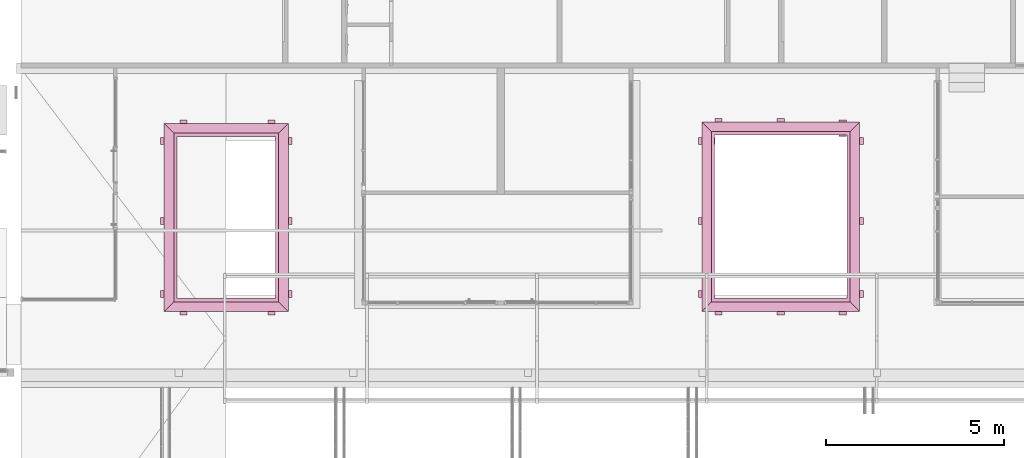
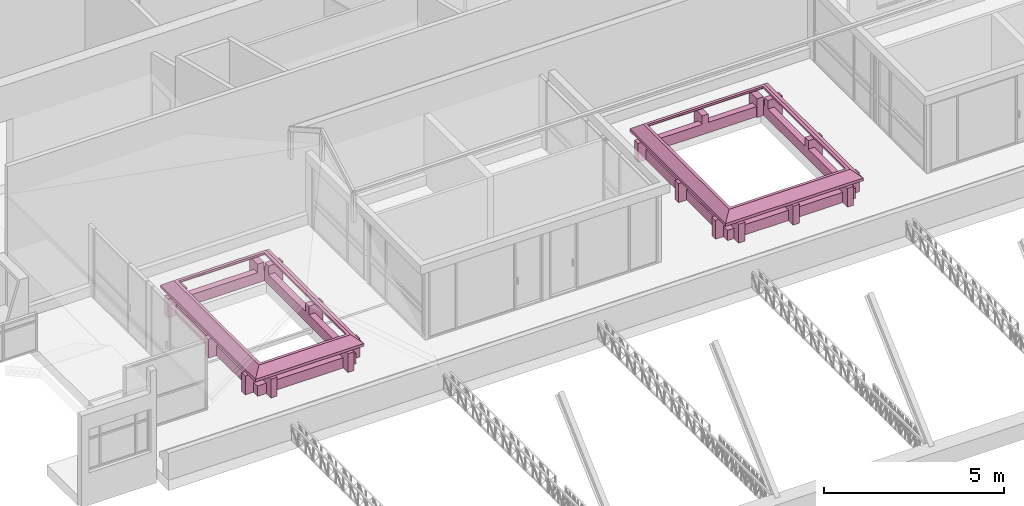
# One storey, part 152 of 153: 2 furniture elements.
"""IFC4 building model written with IfcOpenShell, lengths in metres."""

from ifc_helpers import new_model, entity, si_unit, converted_unit, derived_unit, direction, frame, origin, place, context, subcontext, project, spatial, polygons, source, transform, mapped, material, type_object, type_shapes, element, save


model = new_model("IFC4")

# Units and contexts
model_context = context("Model", 3, precision=1e-05, world=origin(), true_north=direction((6.123031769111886e-17, 1.0)))
body_context = subcontext(model_context, "Body", "Model", "MODEL_VIEW")
ifc_project = project(units=[si_unit("LENGTHUNIT", "METRE"), si_unit("AREAUNIT", "SQUARE_METRE"), si_unit("VOLUMEUNIT", "CUBIC_METRE"), converted_unit("PLANEANGLEUNIT", "DEGREE", entity("IfcRatioMeasure", 0.017453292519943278), si_unit("PLANEANGLEUNIT", "RADIAN"), dimensions=[0, 0, 0, 0, 0, 0, 0]), si_unit("MASSUNIT", "GRAM", prefix="KILO"), derived_unit("MASSDENSITYUNIT", [(si_unit("MASSUNIT", "GRAM", prefix="KILO"), 1), (si_unit("LENGTHUNIT", "METRE"), -3)]), derived_unit("MOMENTOFINERTIAUNIT", [(si_unit("LENGTHUNIT", "METRE"), 4)]), si_unit("TIMEUNIT", "SECOND"), si_unit("FREQUENCYUNIT", "HERTZ"), si_unit("THERMODYNAMICTEMPERATUREUNIT", "DEGREE_CELSIUS"), derived_unit("THERMALTRANSMITTANCEUNIT", [(si_unit("MASSUNIT", "GRAM", prefix="KILO"), 1), (si_unit("THERMODYNAMICTEMPERATUREUNIT", "KELVIN"), -1), (si_unit("TIMEUNIT", "SECOND"), -3)]), derived_unit("VOLUMETRICFLOWRATEUNIT", [(si_unit("LENGTHUNIT", "METRE"), 3), (si_unit("TIMEUNIT", "SECOND"), -1)]), derived_unit("MASSFLOWRATEUNIT", [(si_unit("MASSUNIT", "GRAM", prefix="KILO"), 1), (si_unit("TIMEUNIT", "SECOND"), -1)]), derived_unit("ROTATIONALFREQUENCYUNIT", [(si_unit("TIMEUNIT", "SECOND"), -1)]), si_unit("ELECTRICCURRENTUNIT", "AMPERE"), si_unit("ELECTRICVOLTAGEUNIT", "VOLT"), si_unit("POWERUNIT", "WATT"), si_unit("FORCEUNIT", "NEWTON", prefix="KILO"), si_unit("ILLUMINANCEUNIT", "LUX"), si_unit("LUMINOUSFLUXUNIT", "LUMEN"), si_unit("LUMINOUSINTENSITYUNIT", "CANDELA"), derived_unit("USERDEFINED", [(si_unit("MASSUNIT", "GRAM", prefix="KILO"), -1), (si_unit("LENGTHUNIT", "METRE"), -2), (si_unit("TIMEUNIT", "SECOND"), 3), (si_unit("LUMINOUSFLUXUNIT", "LUMEN"), 1)]), derived_unit("SOUNDPOWERUNIT", [(si_unit("MASSUNIT", "GRAM", prefix="KILO"), 1), (si_unit("LENGTHUNIT", "METRE"), 2), (si_unit("TIMEUNIT", "SECOND"), -3)]), derived_unit("SOUNDPRESSUREUNIT", [(si_unit("MASSUNIT", "GRAM", prefix="KILO"), 1), (si_unit("LENGTHUNIT", "METRE"), -1), (si_unit("TIMEUNIT", "SECOND"), -2)]), derived_unit("LINEARVELOCITYUNIT", [(si_unit("LENGTHUNIT", "METRE"), 1), (si_unit("TIMEUNIT", "SECOND"), -1)]), si_unit("PRESSUREUNIT", "PASCAL"), derived_unit("USERDEFINED", [(si_unit("LENGTHUNIT", "METRE"), -2), (si_unit("MASSUNIT", "GRAM", prefix="KILO"), 1), (si_unit("TIMEUNIT", "SECOND"), -2)]), derived_unit("LINEARFORCEUNIT", [(si_unit("MASSUNIT", "GRAM", prefix="KILO"), 1), (si_unit("LENGTHUNIT", "METRE"), 1), (si_unit("TIMEUNIT", "SECOND"), -2), (si_unit("LENGTHUNIT", "METRE"), -1)]), derived_unit("PLANARFORCEUNIT", [(si_unit("MASSUNIT", "GRAM", prefix="KILO"), 1), (si_unit("LENGTHUNIT", "METRE"), 1), (si_unit("TIMEUNIT", "SECOND"), -2), (si_unit("LENGTHUNIT", "METRE"), -2)])], contexts=[model_context])

# Site, building, storey
site_placement = place(None, origin())
site = spatial("IfcSite", under=ifc_project, at=site_placement, Name="Superficie", CompositionType="ELEMENT")
building_placement = place(site_placement, origin())
building = spatial("IfcBuilding", under=site, at=building_placement, CompositionType="ELEMENT")
storey_placement = place(building_placement, frame((0.0, 0.0, 3.5999999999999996)))
storey = spatial("IfcBuildingStorey", under=building, at=storey_placement, Name="Nivel 1", CompositionType="ELEMENT", Elevation=3.5999999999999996)

# Furniture
ifc_material = material(Name="Madera - Listel", Category="Madera")
furniture_type_1 = type_object("IfcFurnitureType", Name="baranda hueco1:baranda hueco", AssemblyPlace="NOTDEFINED", PredefinedType="NOTDEFINED", material=ifc_material)
shared_shape_1 = source(origin(), body_context, "Body", "Tessellation", [
    polygons([(0.0, 0.4900000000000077, 0.6400000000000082), (0.10000000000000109, 0.49000000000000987, 0.6400000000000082), (0.4599999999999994, 0.49000000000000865, 0.6400000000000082), (0.4599999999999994, 0.6900000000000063, 0.6400000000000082), (0.0, 0.6900000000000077, 0.6400000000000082), (0.0, 0.4900000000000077, 8.121503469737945e-15), (0.10000000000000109, 0.49000000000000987, 8.121503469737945e-15), (0.4599999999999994, 0.49000000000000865, 8.121503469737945e-15), (0.4599999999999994, 0.6900000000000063, 8.121503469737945e-15), (0.0, 0.6900000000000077, 8.121503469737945e-15)], [[[1, 2, 3, 4, 5]], [[2, 1, 6, 7]], [[3, 2, 7, 8]], [[4, 3, 8, 9]], [[5, 4, 9, 10]], [[1, 5, 10, 6]], [[6, 10, 9, 8, 7]]], closed=True),
    polygons([(3.6900000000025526, 4.789999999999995, 8.121503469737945e-15), (3.2250000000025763, 4.7899999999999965, 8.121503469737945e-15), (3.2250000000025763, 4.989999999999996, 8.121503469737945e-15), (3.6900000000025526, 4.989999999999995, 8.121503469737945e-15), (3.6900000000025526, 4.989999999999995, 0.6400000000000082), (3.6900000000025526, 4.789999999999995, 0.6400000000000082), (3.2250000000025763, 4.989999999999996, 0.6400000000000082), (3.2250000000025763, 4.7899999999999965, 0.6400000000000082)], [[[1, 2, 3, 4]], [[5, 6, 1, 4]], [[7, 5, 4, 3]], [[8, 7, 3, 2]], [[6, 8, 2, 1]], [[6, 5, 7, 8]]], closed=True),
    polygons([(0.4599999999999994, 2.7400000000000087, 0.6400000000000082), (0.4599999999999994, 2.5400000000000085, 0.6400000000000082), (0.4599999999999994, 2.5400000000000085, 8.121503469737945e-15), (0.4599999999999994, 2.7400000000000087, 8.121503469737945e-15), (0.0, 2.7400000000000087, 0.6400000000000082), (0.0, 2.7400000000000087, 8.121503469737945e-15), (0.0, 2.5400000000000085, 0.6400000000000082), (0.0, 2.5400000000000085, 8.121503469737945e-15)], [[[1, 2, 3, 4]], [[5, 1, 4, 6]], [[7, 5, 6, 8]], [[2, 7, 8, 3]], [[3, 8, 6, 4]], [[2, 1, 5, 7]]], closed=True),
    polygons([(0.4649999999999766, 4.9900000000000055, 0.6400000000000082), (0.4649999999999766, 4.790000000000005, 0.6400000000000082), (0.4649999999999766, 4.790000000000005, 8.121503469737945e-15), (0.4649999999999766, 4.9900000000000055, 8.121503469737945e-15), (4.331468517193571e-15, 4.990000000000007, 0.6400000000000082), (4.331468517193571e-15, 4.990000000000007, 8.121503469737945e-15), (4.331468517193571e-15, 4.790000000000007, 0.6400000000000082), (4.331468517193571e-15, 4.790000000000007, 8.121503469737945e-15)], [[[1, 2, 3, 4]], [[5, 1, 4, 6]], [[7, 5, 6, 8]], [[2, 7, 8, 3]], [[3, 8, 6, 4]], [[2, 1, 5, 7]]], closed=True),
    polygons([(3.325000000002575, 0.4899999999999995, 0.6400000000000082), (3.225000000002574, 0.4899999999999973, 0.6400000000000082), (3.225000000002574, 0.4899999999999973, 8.121503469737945e-15), (3.325000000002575, 0.4899999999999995, 8.121503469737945e-15), (3.6850000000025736, 0.4899999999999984, 0.6400000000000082), (3.6850000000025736, 0.4899999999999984, 8.121503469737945e-15), (3.6850000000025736, 0.6899999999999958, 0.6400000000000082), (3.6850000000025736, 0.6899999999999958, 8.121503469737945e-15), (3.225000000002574, 0.6899999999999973, 0.6400000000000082), (3.225000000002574, 0.6899999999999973, 8.121503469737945e-15)], [[[1, 2, 3, 4]], [[5, 1, 4, 6]], [[7, 5, 6, 8]], [[9, 7, 8, 10]], [[2, 9, 10, 3]], [[3, 10, 8, 6, 4]], [[2, 1, 5, 7, 9]]], closed=True),
    polygons([(3.6850000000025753, 2.7399999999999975, 0.6400000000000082), (3.6850000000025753, 2.539999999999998, 0.6400000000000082), (3.6850000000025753, 2.539999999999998, 8.121503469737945e-15), (3.6850000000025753, 2.7399999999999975, 8.121503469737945e-15), (3.2250000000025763, 2.7399999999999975, 0.6400000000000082), (3.2250000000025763, 2.7399999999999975, 8.121503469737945e-15), (3.2250000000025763, 2.539999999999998, 0.6400000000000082), (3.2250000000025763, 2.539999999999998, 8.121503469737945e-15)], [[[1, 2, 3, 4]], [[5, 1, 4, 6]], [[7, 5, 6, 8]], [[2, 7, 8, 3]], [[3, 8, 6, 4]], [[2, 1, 5, 7]]], closed=True),
    polygons([(0.7400000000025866, 8.121503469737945e-15, 0.6400000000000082), (0.5400000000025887, 8.121503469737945e-15, 0.6400000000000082), (0.5400000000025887, 8.121503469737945e-15, 8.121503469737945e-15), (0.7400000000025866, 8.121503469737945e-15, 8.121503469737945e-15), (0.7400000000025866, 0.46000000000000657, 0.6400000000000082), (0.7400000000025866, 0.46000000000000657, 8.121503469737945e-15), (0.5400000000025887, 0.46000000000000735, 0.6400000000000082), (0.5400000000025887, 0.46000000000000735, 8.121503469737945e-15), (0.5400000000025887, 0.10000000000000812, 0.6400000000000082), (0.5400000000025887, 0.10000000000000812, 8.121503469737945e-15)], [[[1, 2, 3, 4]], [[5, 1, 4, 6]], [[7, 5, 6, 8]], [[9, 7, 8, 10]], [[2, 9, 10, 3]], [[3, 10, 8, 6, 4]], [[2, 1, 5, 7, 9]]], closed=True),
    polygons([(3.21000000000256, 0.0, 0.6400000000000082), (3.01000000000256, 0.0, 0.6400000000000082), (3.01000000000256, 0.0, 8.121503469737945e-15), (3.21000000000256, 0.0, 8.121503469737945e-15), (3.21000000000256, 0.4599999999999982, 0.6400000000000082), (3.21000000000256, 0.4599999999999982, 8.121503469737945e-15), (3.01000000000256, 0.45999999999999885, 0.6400000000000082), (3.01000000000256, 0.45999999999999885, 8.121503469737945e-15), (3.01000000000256, 0.0999999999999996, 0.6400000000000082), (3.01000000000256, 0.0999999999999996, 8.121503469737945e-15)], [[[1, 2, 3, 4]], [[5, 1, 4, 6]], [[7, 5, 6, 8]], [[9, 7, 8, 10]], [[2, 9, 10, 3]], [[3, 10, 8, 6, 4]], [[2, 1, 5, 7, 9]]], closed=True),
    polygons([(0.7400000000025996, 5.016145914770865, 0.6400000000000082), (0.5400000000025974, 5.016145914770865, 0.6400000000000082), (0.5400000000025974, 5.016145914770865, 8.121503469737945e-15), (0.7400000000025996, 5.016145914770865, 8.121503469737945e-15), (0.7400000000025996, 5.4761459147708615, 0.6400000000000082), (0.7400000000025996, 5.4761459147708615, 8.121503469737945e-15), (0.5400000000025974, 5.476145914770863, 0.6400000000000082), (0.5400000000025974, 5.476145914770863, 8.121503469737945e-15), (0.5400000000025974, 5.116145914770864, 0.6400000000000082), (0.5400000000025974, 5.116145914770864, 8.121503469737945e-15)], [[[1, 2, 3, 4]], [[5, 1, 4, 6]], [[7, 5, 6, 8]], [[9, 7, 8, 10]], [[2, 9, 10, 3]], [[3, 10, 8, 6, 4]], [[2, 1, 5, 7, 9]]], closed=True),
    polygons([(3.2100000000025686, 5.016145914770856, 0.6400000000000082), (3.010000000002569, 5.016145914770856, 0.6400000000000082), (3.010000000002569, 5.016145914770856, 8.121503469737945e-15), (3.2100000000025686, 5.016145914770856, 8.121503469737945e-15), (3.2100000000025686, 5.476145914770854, 0.6400000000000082), (3.2100000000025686, 5.476145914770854, 8.121503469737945e-15), (3.010000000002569, 5.476145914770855, 0.6400000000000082), (3.010000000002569, 5.476145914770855, 8.121503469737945e-15), (3.010000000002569, 5.116145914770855, 0.6400000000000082), (3.010000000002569, 5.116145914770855, 8.121503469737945e-15)], [[[1, 2, 3, 4]], [[5, 1, 4, 6]], [[7, 5, 6, 8]], [[9, 7, 8, 10]], [[2, 9, 10, 3]], [[3, 10, 8, 6, 4]], [[2, 1, 5, 7, 9]]], closed=True),
    polygons([(3.2250000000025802, 5.016145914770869, 7.038636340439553e-15), (3.2250000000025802, 5.016145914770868, 0.3500000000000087), (0.4600000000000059, 5.016145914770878, 0.3500000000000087), (0.4600000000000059, 5.016145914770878, 2.7071678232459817e-15), (3.4250000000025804, 5.216145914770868, 0.3500000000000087), (3.4250000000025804, 5.216145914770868, 8.121503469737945e-15), (0.26000000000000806, 5.216145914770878, 8.121503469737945e-15), (0.26000000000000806, 5.216145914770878, 0.35000000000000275), (0.4599999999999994, 0.4599999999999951, 0.3500000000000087), (0.4599999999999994, 0.4599999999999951, 2.7071678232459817e-15), (0.2599999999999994, 0.259999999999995, 8.121503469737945e-15), (0.2599999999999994, 0.259999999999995, 0.35000000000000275), (3.225000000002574, 0.45999999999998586, 0.3500000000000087), (3.225000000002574, 0.45999999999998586, 7.038636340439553e-15), (3.4250000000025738, 0.25999999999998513, 8.121503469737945e-15), (3.4250000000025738, 0.25999999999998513, 0.3500000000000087)], [[[1, 2, 3, 4]], [[5, 6, 7, 8]], [[4, 3, 9, 10]], [[8, 7, 11, 12]], [[10, 9, 13, 14]], [[12, 11, 15, 16]], [[14, 13, 2, 1]], [[6, 15, 11, 7], [4, 10, 14, 1]], [[16, 15, 6, 5]], [[8, 12, 16, 5], [2, 13, 9, 3]]], closed=True),
    polygons([(3.2250000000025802, 5.016145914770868, 0.9000000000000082), (3.2250000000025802, 5.016145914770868, 0.9600000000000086), (0.4600000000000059, 5.016145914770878, 0.9600000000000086), (0.4600000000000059, 5.016145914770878, 0.8999999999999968), (3.5250000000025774, 5.316145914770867, 0.7300000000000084), (3.3150000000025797, 5.106145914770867, 0.9000000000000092), (0.37000000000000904, 5.1061459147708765, 0.9000000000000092), (0.16000000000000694, 5.3161459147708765, 0.7300000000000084), (3.5250000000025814, 5.316145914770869, 0.6400000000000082), (0.16000000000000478, 5.316145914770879, 0.6399999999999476), (3.585000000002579, 5.376145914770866, 0.73000000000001), (3.585000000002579, 5.376145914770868, 0.6400000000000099), (0.10000000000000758, 5.376145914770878, 0.6400000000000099), (0.10000000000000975, 5.376145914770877, 0.7300000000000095), (3.3150000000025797, 5.106145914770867, 0.9600000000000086), (0.37000000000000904, 5.1061459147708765, 0.9600000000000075), (0.4599999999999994, 0.4599999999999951, 0.9600000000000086), (0.4599999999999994, 0.4599999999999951, 0.8999999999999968), (0.37000000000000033, 0.36999999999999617, 0.9000000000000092), (0.16000000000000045, 0.15999999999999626, 0.7300000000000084), (0.15999999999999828, 0.1599999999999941, 0.6399999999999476), (0.09999999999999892, 0.09999999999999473, 0.6400000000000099), (0.10000000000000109, 0.09999999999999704, 0.73000000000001), (0.37000000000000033, 0.3699999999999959, 0.9600000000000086), (3.225000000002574, 0.45999999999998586, 0.9600000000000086), (3.225000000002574, 0.45999999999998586, 0.9000000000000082), (3.315000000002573, 0.3699999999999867, 0.9000000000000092), (3.525000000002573, 0.15999999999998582, 0.7300000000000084), (3.525000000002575, 0.15999999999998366, 0.6400000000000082), (3.5850000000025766, 0.09999999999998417, 0.6400000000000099), (3.585000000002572, 0.0999999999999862, 0.73000000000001), (3.315000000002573, 0.3699999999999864, 0.9600000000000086)], [[[1, 2, 3, 4]], [[5, 6, 7, 8]], [[9, 5, 8, 10]], [[11, 12, 13, 14]], [[15, 11, 14, 16]], [[4, 3, 17, 18]], [[8, 7, 19, 20]], [[10, 8, 20, 21]], [[14, 13, 22, 23]], [[16, 14, 23, 24]], [[18, 17, 25, 26]], [[20, 19, 27, 28]], [[21, 20, 28, 29]], [[23, 22, 30, 31]], [[24, 23, 31, 32]], [[26, 25, 2, 1]], [[6, 27, 19, 7], [4, 18, 26, 1]], [[28, 27, 6, 5]], [[29, 28, 5, 9]], [[12, 30, 22, 13], [10, 21, 29, 9]], [[31, 30, 12, 11]], [[32, 31, 11, 15]], [[16, 24, 32, 15], [2, 25, 17, 3]]], closed=True),
])
type_shapes(furniture_type_1, [shared_shape_1])
furniture_1_placement = place(storey_placement, frame((-18.723200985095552, -1.304170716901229, 0.0)))
element("IfcFurniture", 1, at=furniture_1_placement, inside=storey, type_object=furniture_type_1, material=ifc_material, Name="baranda hueco1:baranda hueco", ObjectType="baranda hueco1:baranda hueco", PredefinedType="NOTDEFINED", context=body_context, shape_type="MappedRepresentation", body=[
    mapped(shared_shape_1, transform((0.0, 0.0, 0.0), scale=1.0)),
])
furniture_type_2 = type_object("IfcFurnitureType", Name="baranda hueco2:baranda hueco", AssemblyPlace="NOTDEFINED", PredefinedType="NOTDEFINED", material=ifc_material)
shared_shape_2 = source(origin(), body_context, "Body", "Tessellation", [
    polygons([(0.0, 0.4900000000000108, 0.640000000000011), (0.10000000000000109, 0.490000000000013, 0.640000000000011), (0.4599999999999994, 0.49000000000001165, 0.640000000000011), (0.4599999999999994, 0.6900000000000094, 0.640000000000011), (0.0, 0.6900000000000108, 0.640000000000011), (0.0, 0.4900000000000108, 1.0828671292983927e-14), (0.10000000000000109, 0.490000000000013, 1.0828671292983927e-14), (0.4599999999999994, 0.49000000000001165, 1.0828671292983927e-14), (0.4599999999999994, 0.6900000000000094, 1.0828671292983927e-14), (0.0, 0.6900000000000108, 1.0828671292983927e-14)], [[[1, 2, 3, 4, 5]], [[2, 1, 6, 7]], [[3, 2, 7, 8]], [[4, 3, 8, 9]], [[5, 4, 9, 10]], [[1, 5, 10, 6]], [[6, 10, 9, 8, 7]]], closed=True),
    polygons([(4.634999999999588, 4.789999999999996, 1.0828671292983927e-14), (4.169999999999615, 4.789999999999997, 1.0828671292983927e-14), (4.169999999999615, 4.989999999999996, 1.0828671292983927e-14), (4.634999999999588, 4.989999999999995, 1.0828671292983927e-14), (4.634999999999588, 4.989999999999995, 0.640000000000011), (4.634999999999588, 4.789999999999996, 0.640000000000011), (4.169999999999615, 4.989999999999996, 0.640000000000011), (4.169999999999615, 4.789999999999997, 0.640000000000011)], [[[1, 2, 3, 4]], [[5, 6, 1, 4]], [[7, 5, 4, 3]], [[8, 7, 3, 2]], [[6, 8, 2, 1]], [[6, 5, 7, 8]]], closed=True),
    polygons([(0.4600000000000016, 2.7400000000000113, 0.640000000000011), (0.4600000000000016, 2.540000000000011, 0.640000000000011), (0.4600000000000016, 2.540000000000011, 1.0828671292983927e-14), (0.4600000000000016, 2.7400000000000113, 1.0828671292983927e-14), (2.1657342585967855e-15, 2.7400000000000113, 0.640000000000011), (2.1657342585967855e-15, 2.7400000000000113, 1.0828671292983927e-14), (2.1657342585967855e-15, 2.540000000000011, 0.640000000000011), (2.1657342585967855e-15, 2.540000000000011, 1.0828671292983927e-14)], [[[1, 2, 3, 4]], [[5, 1, 4, 6]], [[7, 5, 6, 8]], [[2, 7, 8, 3]], [[3, 8, 6, 4]], [[2, 1, 5, 7]]], closed=True),
    polygons([(0.4649999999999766, 4.990000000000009, 0.640000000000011), (0.4649999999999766, 4.790000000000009, 0.640000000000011), (0.4649999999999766, 4.790000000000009, 1.0828671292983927e-14), (0.4649999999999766, 4.990000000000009, 1.0828671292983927e-14), (4.331468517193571e-15, 4.990000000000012, 0.640000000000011), (4.331468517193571e-15, 4.990000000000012, 1.0828671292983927e-14), (4.331468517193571e-15, 4.79000000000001, 0.640000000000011), (4.331468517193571e-15, 4.79000000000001, 1.0828671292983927e-14)], [[[1, 2, 3, 4]], [[5, 1, 4, 6]], [[7, 5, 6, 8]], [[2, 7, 8, 3]], [[3, 8, 6, 4]], [[2, 1, 5, 7]]], closed=True),
    polygons([(4.269999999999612, 0.4899999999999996, 0.640000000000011), (4.169999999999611, 0.48999999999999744, 0.640000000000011), (4.169999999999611, 0.48999999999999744, 1.0828671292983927e-14), (4.269999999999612, 0.4899999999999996, 1.0828671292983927e-14), (4.62999999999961, 0.4899999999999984, 0.640000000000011), (4.62999999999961, 0.4899999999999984, 1.0828671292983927e-14), (4.62999999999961, 0.689999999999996, 0.640000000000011), (4.62999999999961, 0.689999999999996, 1.0828671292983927e-14), (4.169999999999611, 0.6899999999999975, 0.640000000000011), (4.169999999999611, 0.6899999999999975, 1.0828671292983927e-14)], [[[1, 2, 3, 4]], [[5, 1, 4, 6]], [[7, 5, 6, 8]], [[9, 7, 8, 10]], [[2, 9, 10, 3]], [[3, 10, 8, 6, 4]], [[2, 1, 5, 7, 9]]], closed=True),
    polygons([(4.629999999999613, 2.739999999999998, 0.640000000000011), (4.629999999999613, 2.5399999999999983, 0.640000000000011), (4.629999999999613, 2.5399999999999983, 1.0828671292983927e-14), (4.629999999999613, 2.739999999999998, 1.0828671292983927e-14), (4.169999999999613, 2.739999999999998, 0.640000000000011), (4.169999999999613, 2.739999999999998, 1.0828671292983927e-14), (4.169999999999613, 2.5399999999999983, 0.640000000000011), (4.169999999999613, 2.5399999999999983, 1.0828671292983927e-14)], [[[1, 2, 3, 4]], [[5, 1, 4, 6]], [[7, 5, 6, 8]], [[2, 7, 8, 3]], [[3, 8, 6, 4]], [[2, 1, 5, 7]]], closed=True),
    polygons([(0.6649999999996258, 8.392220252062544e-15, 0.640000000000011), (0.46499999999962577, 8.392220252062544e-15, 0.640000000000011), (0.46499999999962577, 8.392220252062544e-15, 1.0828671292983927e-14), (0.6649999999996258, 8.392220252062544e-15, 1.0828671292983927e-14), (0.6649999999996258, 0.46000000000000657, 0.640000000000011), (0.6649999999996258, 0.46000000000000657, 1.0828671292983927e-14), (0.46499999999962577, 0.46000000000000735, 0.640000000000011), (0.46499999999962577, 0.46000000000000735, 1.0828671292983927e-14), (0.46499999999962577, 0.10000000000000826, 0.640000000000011), (0.46499999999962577, 0.10000000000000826, 1.0828671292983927e-14)], [[[1, 2, 3, 4]], [[5, 1, 4, 6]], [[7, 5, 6, 8]], [[9, 7, 8, 10]], [[2, 9, 10, 3]], [[3, 10, 8, 6, 4]], [[2, 1, 5, 7, 9]]], closed=True),
    polygons([(4.154999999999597, 0.0, 0.640000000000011), (3.954999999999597, 0.0, 0.640000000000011), (3.954999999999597, 0.0, 1.0828671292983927e-14), (4.154999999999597, 0.0, 1.0828671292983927e-14), (4.154999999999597, 0.4599999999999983, 0.640000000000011), (4.154999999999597, 0.4599999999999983, 1.0828671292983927e-14), (3.954999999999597, 0.45999999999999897, 0.640000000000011), (3.954999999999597, 0.45999999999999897, 1.0828671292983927e-14), (3.954999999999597, 0.09999999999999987, 0.640000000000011), (3.954999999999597, 0.09999999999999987, 1.0828671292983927e-14)], [[[1, 2, 3, 4]], [[5, 1, 4, 6]], [[7, 5, 6, 8]], [[9, 7, 8, 10]], [[2, 9, 10, 3]], [[3, 10, 8, 6, 4]], [[2, 1, 5, 7, 9]]], closed=True),
    polygons([(4.154999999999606, 5.016145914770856, 0.640000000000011), (3.9549999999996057, 5.016145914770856, 0.640000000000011), (3.9549999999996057, 5.016145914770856, 1.0828671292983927e-14), (4.154999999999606, 5.016145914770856, 1.0828671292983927e-14), (4.154999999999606, 5.476145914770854, 0.640000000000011), (4.154999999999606, 5.476145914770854, 1.0828671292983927e-14), (3.9549999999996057, 5.476145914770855, 0.640000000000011), (3.9549999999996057, 5.476145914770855, 1.0828671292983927e-14), (3.9549999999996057, 5.116145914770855, 0.640000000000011), (3.9549999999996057, 5.116145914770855, 1.0828671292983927e-14)], [[[1, 2, 3, 4]], [[5, 1, 4, 6]], [[7, 5, 6, 8]], [[9, 7, 8, 10]], [[2, 9, 10, 3]], [[3, 10, 8, 6, 4]], [[2, 1, 5, 7, 9]]], closed=True),
    polygons([(2.414999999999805, 2.7071678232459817e-15, 0.640000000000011), (2.214999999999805, 2.7071678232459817e-15, 0.640000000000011), (2.214999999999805, 2.7071678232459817e-15, 1.0828671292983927e-14), (2.414999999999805, 2.7071678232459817e-15, 1.0828671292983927e-14), (2.414999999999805, 0.460000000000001, 0.640000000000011), (2.414999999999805, 0.460000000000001, 1.0828671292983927e-14), (2.214999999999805, 0.4600000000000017, 0.640000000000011), (2.214999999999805, 0.4600000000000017, 1.0828671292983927e-14), (2.214999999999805, 0.10000000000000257, 0.640000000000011), (2.214999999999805, 0.10000000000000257, 1.0828671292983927e-14)], [[[1, 2, 3, 4]], [[5, 1, 4, 6]], [[7, 5, 6, 8]], [[9, 7, 8, 10]], [[2, 9, 10, 3]], [[3, 10, 8, 6, 4]], [[2, 1, 5, 7, 9]]], closed=True),
    polygons([(0.6649999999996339, 5.059999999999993, 0.640000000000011), (0.4649999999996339, 5.059999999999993, 0.640000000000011), (0.4649999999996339, 5.059999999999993, 1.0828671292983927e-14), (0.6649999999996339, 5.059999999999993, 1.0828671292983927e-14), (0.6649999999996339, 5.519999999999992, 0.640000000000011), (0.6649999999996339, 5.519999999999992, 1.0828671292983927e-14), (0.4649999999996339, 5.5199999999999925, 0.640000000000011), (0.4649999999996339, 5.5199999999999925, 1.0828671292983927e-14), (0.4649999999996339, 5.159999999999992, 0.640000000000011), (0.4649999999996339, 5.159999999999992, 1.0828671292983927e-14)], [[[1, 2, 3, 4]], [[5, 1, 4, 6]], [[7, 5, 6, 8]], [[9, 7, 8, 10]], [[2, 9, 10, 3]], [[3, 10, 8, 6, 4]], [[2, 1, 5, 7, 9]]], closed=True),
    polygons([(2.414999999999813, 5.059999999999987, 0.640000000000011), (2.2149999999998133, 5.059999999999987, 0.640000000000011), (2.2149999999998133, 5.059999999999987, 1.0828671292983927e-14), (2.414999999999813, 5.059999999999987, 1.0828671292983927e-14), (2.414999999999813, 5.519999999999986, 0.640000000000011), (2.414999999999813, 5.519999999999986, 1.0828671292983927e-14), (2.2149999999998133, 5.519999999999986, 0.640000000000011), (2.2149999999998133, 5.519999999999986, 1.0828671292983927e-14), (2.2149999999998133, 5.159999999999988, 0.640000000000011), (2.2149999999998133, 5.159999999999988, 1.0828671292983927e-14)], [[[1, 2, 3, 4]], [[5, 1, 4, 6]], [[7, 5, 6, 8]], [[9, 7, 8, 10]], [[2, 9, 10, 3]], [[3, 10, 8, 6, 4]], [[2, 1, 5, 7, 9]]], closed=True),
    polygons([(4.169999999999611, 5.059999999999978, 9.745804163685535e-15), (4.169999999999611, 5.059999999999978, 0.3500000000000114), (0.46000000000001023, 5.059999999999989, 0.3500000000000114), (0.46000000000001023, 5.059999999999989, 3.2486013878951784e-15), (4.369999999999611, 5.259999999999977, 0.3500000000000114), (4.369999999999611, 5.259999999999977, 1.0828671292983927e-14), (0.2600000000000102, 5.25999999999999, 1.0828671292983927e-14), (0.2600000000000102, 5.25999999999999, 0.3500000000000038), (0.46000000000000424, 0.4600000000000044, 0.3500000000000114), (0.46000000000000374, 0.46000000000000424, 3.2486013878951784e-15), (0.2600000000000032, 0.2600000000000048, 1.0828671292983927e-14), (0.26000000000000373, 0.2600000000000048, 0.3500000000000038), (4.169999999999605, 0.45999999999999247, 0.3500000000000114), (4.169999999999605, 0.45999999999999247, 9.745804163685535e-15), (4.369999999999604, 0.2599999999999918, 1.0828671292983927e-14), (4.369999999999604, 0.2599999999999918, 0.3500000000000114)], [[[1, 2, 3, 4]], [[5, 6, 7, 8]], [[4, 3, 9, 10]], [[8, 7, 11, 12]], [[10, 9, 13, 14]], [[12, 11, 15, 16]], [[14, 13, 2, 1]], [[6, 15, 11, 7], [4, 10, 14, 1]], [[16, 15, 6, 5]], [[8, 12, 16, 5], [2, 13, 9, 3]]], closed=True),
    polygons([(4.169999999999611, 5.059999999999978, 0.9000000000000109), (4.169999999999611, 5.059999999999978, 0.9600000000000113), (0.46000000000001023, 5.059999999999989, 0.9600000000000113), (0.46000000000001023, 5.059999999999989, 0.8999999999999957), (4.46999999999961, 5.359999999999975, 0.7300000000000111), (4.259999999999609, 5.149999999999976, 0.900000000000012), (0.3700000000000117, 5.149999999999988, 0.900000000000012), (0.16000000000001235, 5.359999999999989, 0.7300000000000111), (4.469999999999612, 5.359999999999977, 0.640000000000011), (0.16000000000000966, 5.359999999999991, 0.6399999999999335), (4.5299999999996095, 5.419999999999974, 0.7300000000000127), (4.529999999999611, 5.419999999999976, 0.6400000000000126), (0.10000000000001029, 5.419999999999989, 0.6400000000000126), (0.10000000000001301, 5.419999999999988, 0.7300000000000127), (4.25999999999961, 5.149999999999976, 0.9600000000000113), (0.3700000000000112, 5.149999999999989, 0.9600000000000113), (0.46000000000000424, 0.4600000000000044, 0.9600000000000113), (0.46000000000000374, 0.4600000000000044, 0.8999999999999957), (0.3700000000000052, 0.37000000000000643, 0.900000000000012), (0.16000000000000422, 0.16000000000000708, 0.7300000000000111), (0.16000000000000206, 0.16000000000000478, 0.6399999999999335), (0.10000000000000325, 0.10000000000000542, 0.6400000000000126), (0.10000000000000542, 0.10000000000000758, 0.7300000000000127), (0.37000000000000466, 0.3700000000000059, 0.9600000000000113), (4.169999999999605, 0.45999999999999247, 0.9600000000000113), (4.169999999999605, 0.45999999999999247, 0.9000000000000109), (4.259999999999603, 0.36999999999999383, 0.900000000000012), (4.469999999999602, 0.15999999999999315, 0.7300000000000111), (4.4699999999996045, 0.1599999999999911, 0.640000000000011), (4.529999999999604, 0.09999999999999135, 0.6400000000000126), (4.5299999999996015, 0.09999999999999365, 0.7300000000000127), (4.259999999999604, 0.36999999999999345, 0.9600000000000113)], [[[1, 2, 3, 4]], [[5, 6, 7, 8]], [[9, 5, 8, 10]], [[11, 12, 13, 14]], [[15, 11, 14, 16]], [[4, 3, 17, 18]], [[8, 7, 19, 20]], [[10, 8, 20, 21]], [[14, 13, 22, 23]], [[16, 14, 23, 24]], [[18, 17, 25, 26]], [[20, 19, 27, 28]], [[21, 20, 28, 29]], [[23, 22, 30, 31]], [[24, 23, 31, 32]], [[26, 25, 2, 1]], [[6, 27, 19, 7], [4, 18, 26, 1]], [[28, 27, 6, 5]], [[29, 28, 5, 9]], [[12, 30, 22, 13], [10, 21, 29, 9]], [[31, 30, 12, 11]], [[32, 31, 11, 15]], [[16, 24, 32, 15], [2, 25, 17, 3]]], closed=True),
])
type_shapes(furniture_type_2, [shared_shape_2])
furniture_2_placement = place(storey_placement, frame((-3.6282009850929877, -1.304170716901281, 0.0)))
element("IfcFurniture", 2, at=furniture_2_placement, inside=storey, type_object=furniture_type_2, material=ifc_material, Name="baranda hueco2:baranda hueco", ObjectType="baranda hueco2:baranda hueco", PredefinedType="NOTDEFINED", context=body_context, shape_type="MappedRepresentation", body=[
    mapped(shared_shape_2, transform((0.0, 0.0, 0.0), scale=1.0)),
])

save(model, "model.ifc")
